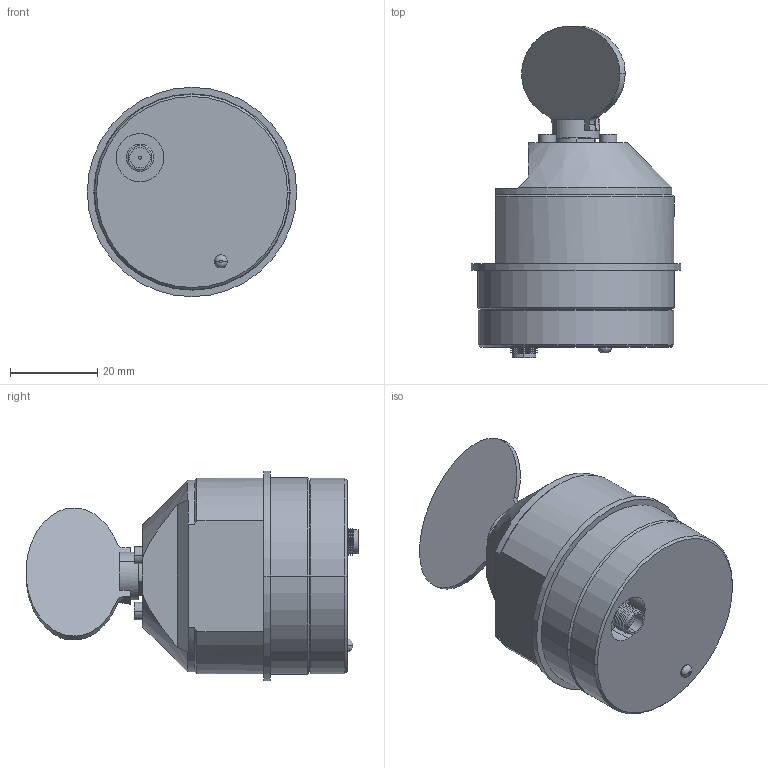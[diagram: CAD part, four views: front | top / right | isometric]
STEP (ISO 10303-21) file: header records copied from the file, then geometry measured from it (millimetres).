
FILE_DESCRIPTION (( 'STEP AP214' ), '1' );
FILE_NAME ('RTAX_A20_SiC.STEP', '2019-06-06T08:04:36', ( '' ), ( '' ), 'SwSTEP 2.0', 'SolidWorks 2011', '' );
FILE_SCHEMA (( 'AUTOMOTIVE_DESIGN' ));
Length unit declared in the file: millimetre
Products named in the file (5): socket head cap screw_iso_ISO 4762 M2 x 5 --- 5N; Scanner_Draw10_4; A20_SiC_MirrorX; Scanner_Solid; RTAX_A20_SiC
Assembly tree (5 placements, depth 2):
  RTAX_A20_SiC
    A20_SiC_MirrorX
    socket head cap screw_iso_ISO 4762 M2 x 5 --- 5N  x2
    Scanner_Draw10_4
    Scanner_Solid
Bounding box: 48 x 76.14 x 48 mm (x, y, z)
Volume: 66989.3 mm3; surface area: 12437.9 mm2
Topology: 5 solids, 5 shells, 234 faces, 536 edges, 326 vertices
Faces by surface type: plane 90, cylinder 71, cone 50, torus 16, bspline 7
Entity records: 7837 total; most frequent: CARTESIAN_POINT 1429, DIRECTION 1053, ORIENTED_EDGE 952, EDGE_CURVE 476, AXIS2_PLACEMENT_3D 419, VERTEX_POINT 293, EDGE_LOOP 227, LINE 215
